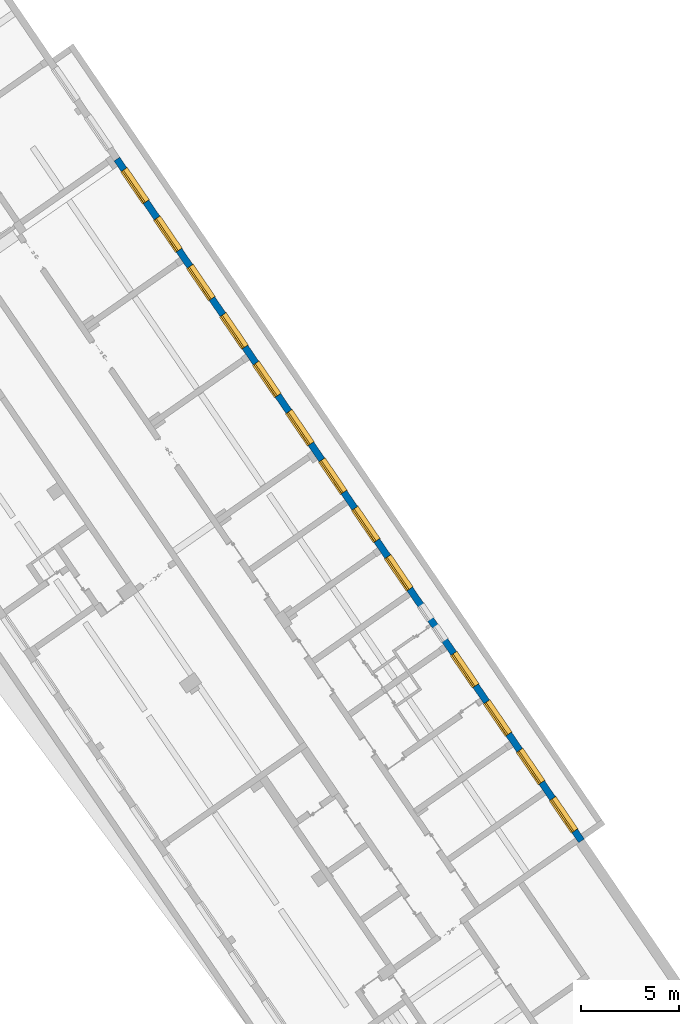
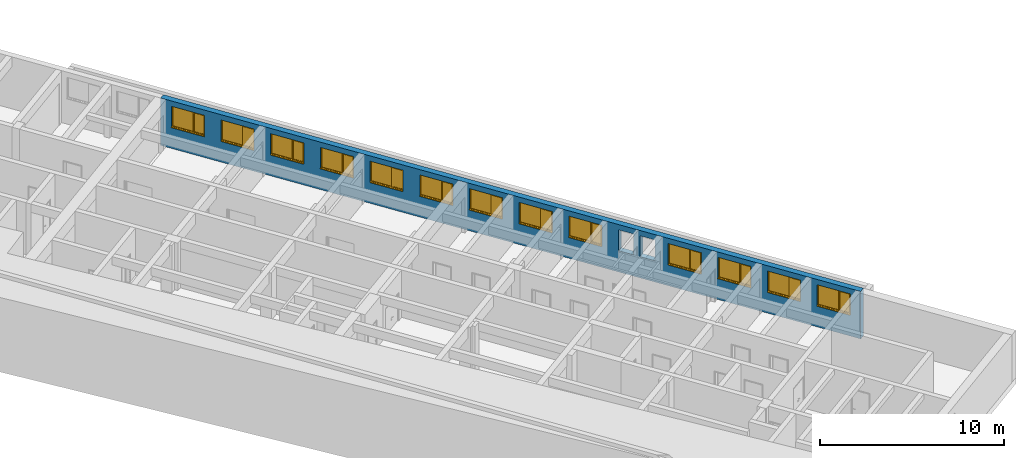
# One storey, part 56 of 112: 13 windows, 1 wall, 15 openings.
"""IFC2X3 building model written with IfcOpenShell, lengths in millimetres."""

from ifc_helpers import new_model, entity, si_unit, converted_unit, derived_unit, direction, frame, frame_2d, origin, place, context, subcontext, project, spatial, polyline, rectangle, outline, extrude, faceted_brep, source, transform, mapped, material, material_list, layer, layer_set, layer_usage, type_object, type_shapes, element, fill, save


model = new_model("IFC2X3")

# Units and contexts
model_context = context("Model", 3, precision=0.01, world=origin(), true_north=direction((6.123031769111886e-17, 1.0)))
body_context = subcontext(model_context, "Body", "Model", "MODEL_VIEW")
ifc_project = project(units=[si_unit("LENGTHUNIT", "METRE", prefix="MILLI"), si_unit("AREAUNIT", "SQUARE_METRE"), si_unit("VOLUMEUNIT", "CUBIC_METRE"), converted_unit("PLANEANGLEUNIT", "DEGREE", entity("IfcRatioMeasure", 0.017453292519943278), si_unit("PLANEANGLEUNIT", "RADIAN"), dimensions=[0, 0, 0, 0, 0, 0, 0]), si_unit("MASSUNIT", "GRAM", prefix="KILO"), derived_unit("MASSDENSITYUNIT", [(si_unit("MASSUNIT", "GRAM", prefix="KILO"), 1), (si_unit("LENGTHUNIT", "METRE"), -3)]), derived_unit("MOMENTOFINERTIAUNIT", [(si_unit("LENGTHUNIT", "METRE"), 4)]), si_unit("TIMEUNIT", "SECOND"), si_unit("FREQUENCYUNIT", "HERTZ"), si_unit("THERMODYNAMICTEMPERATUREUNIT", "DEGREE_CELSIUS"), derived_unit("THERMALTRANSMITTANCEUNIT", [(si_unit("MASSUNIT", "GRAM", prefix="KILO"), 1), (si_unit("THERMODYNAMICTEMPERATUREUNIT", "KELVIN"), -1), (si_unit("TIMEUNIT", "SECOND"), -3)]), derived_unit("THERMALCONDUCTANCEUNIT", [(si_unit("MASSUNIT", "GRAM", prefix="KILO"), 1), (si_unit("LENGTHUNIT", "METRE"), 1), (si_unit("THERMODYNAMICTEMPERATUREUNIT", "KELVIN"), -1), (si_unit("TIMEUNIT", "SECOND"), -3)]), derived_unit("VOLUMETRICFLOWRATEUNIT", [(si_unit("LENGTHUNIT", "METRE"), 3), (si_unit("TIMEUNIT", "SECOND"), -1)]), derived_unit("MASSFLOWRATEUNIT", [(si_unit("MASSUNIT", "GRAM", prefix="KILO"), 1), (si_unit("TIMEUNIT", "SECOND"), -1)]), derived_unit("ROTATIONALFREQUENCYUNIT", [(si_unit("TIMEUNIT", "SECOND"), -1)]), si_unit("ELECTRICCURRENTUNIT", "AMPERE"), si_unit("ELECTRICVOLTAGEUNIT", "VOLT"), si_unit("POWERUNIT", "WATT"), converted_unit("FORCEUNIT", "KIP", entity("IfcRatioMeasure", 2.088543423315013e-05), si_unit("FORCEUNIT", "NEWTON"), dimensions=[1, 1, -2, 0, 0, 0, 0]), si_unit("ILLUMINANCEUNIT", "LUX"), si_unit("LUMINOUSFLUXUNIT", "LUMEN"), si_unit("LUMINOUSINTENSITYUNIT", "CANDELA"), derived_unit("USERDEFINED", [(si_unit("MASSUNIT", "GRAM", prefix="KILO"), -1), (si_unit("LENGTHUNIT", "METRE"), -2), (si_unit("TIMEUNIT", "SECOND"), 3), (si_unit("LUMINOUSFLUXUNIT", "LUMEN"), 1)]), derived_unit("USERDEFINED", [(si_unit("MASSUNIT", "GRAM", prefix="KILO"), 1), (si_unit("LENGTHUNIT", "METRE"), 3), (si_unit("TIMEUNIT", "SECOND"), -3), (si_unit("ELECTRICCURRENTUNIT", "AMPERE"), -2)]), derived_unit("USERDEFINED", [(si_unit("LENGTHUNIT", "METRE"), 2), (si_unit("TIMEUNIT", "SECOND"), -2)]), derived_unit("SOUNDPOWERUNIT", [(si_unit("MASSUNIT", "GRAM", prefix="KILO"), 1), (si_unit("LENGTHUNIT", "METRE"), 2), (si_unit("TIMEUNIT", "SECOND"), -3)]), derived_unit("SOUNDPRESSUREUNIT", [(si_unit("MASSUNIT", "GRAM", prefix="KILO"), 1), (si_unit("LENGTHUNIT", "METRE"), -1), (si_unit("TIMEUNIT", "SECOND"), -2)]), derived_unit("LINEARVELOCITYUNIT", [(si_unit("LENGTHUNIT", "METRE"), 1), (si_unit("TIMEUNIT", "SECOND"), -1)]), si_unit("PRESSUREUNIT", "PASCAL"), derived_unit("USERDEFINED", [(si_unit("LENGTHUNIT", "METRE"), -2), (si_unit("MASSUNIT", "GRAM", prefix="KILO"), 1), (si_unit("TIMEUNIT", "SECOND"), -2)]), derived_unit("LINEARFORCEUNIT", [(si_unit("MASSUNIT", "GRAM", prefix="KILO"), 1), (si_unit("LENGTHUNIT", "METRE"), 1), (si_unit("TIMEUNIT", "SECOND"), -2), (si_unit("LENGTHUNIT", "METRE"), -1)]), derived_unit("PLANARFORCEUNIT", [(si_unit("MASSUNIT", "GRAM", prefix="KILO"), 1), (si_unit("LENGTHUNIT", "METRE"), 1), (si_unit("TIMEUNIT", "SECOND"), -2), (si_unit("LENGTHUNIT", "METRE"), -2)]), derived_unit("SPECIFICHEATCAPACITYUNIT", [(si_unit("LENGTHUNIT", "METRE"), 2), (si_unit("TIMEUNIT", "SECOND"), -2), (si_unit("THERMODYNAMICTEMPERATUREUNIT", "KELVIN"), -1)]), derived_unit("VAPORPERMEABILITYUNIT", [(si_unit("TIMEUNIT", "SECOND"), 1), (si_unit("LENGTHUNIT", "METRE"), -1)]), derived_unit("DYNAMICVISCOSITYUNIT", [(si_unit("MASSUNIT", "GRAM", prefix="KILO"), 1), (si_unit("LENGTHUNIT", "METRE"), -1), (si_unit("TIMEUNIT", "SECOND"), -1)]), derived_unit("THERMALEXPANSIONCOEFFICIENTUNIT", [(si_unit("THERMODYNAMICTEMPERATUREUNIT", "KELVIN"), -1)])], contexts=[model_context])

# Site, building, storey
site_placement = place(None, frame((0.0, 0.0, 0.0), z_axis=(0.0, 0.0, 1.0), x_axis=(0.8191520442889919, 0.5735764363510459, 0.0)))
site = spatial("IfcSite", under=ifc_project, at=site_placement, Name="Default", CompositionType="ELEMENT")
building_placement = place(site_placement, origin())
building = spatial("IfcBuilding", under=site, at=building_placement, CompositionType="ELEMENT")
storey_placement = place(building_placement, frame((0.0, 0.0, -3600.0)))
storey = spatial("IfcBuildingStorey", under=building, at=storey_placement, Name="0.UG -3.60", CompositionType="ELEMENT", Elevation=-3600.0000000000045)

# Wall, openings, windows
ifc_material_1 = material(Name="Analytical Wall Surface_CJC")
ifc_layer = layer(ifc_material_1, 350.0)
ifc_layer_set = layer_set([ifc_layer], Name="Basic Wall:Wand_Aussen_35")
ifc_layer_usage = layer_usage(ifc_layer_set, "AXIS2", "NEGATIVE", 175.0)
wall_type = type_object("IfcWallType", Name="Basic Wall:Wand_Aussen_35", PredefinedType="STANDARD", material=ifc_layer_set)
wall_placement = place(storey_placement, frame((-205076.49299844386, 103546.35891435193, 300.0), z_axis=(0.0, 0.0, 1.0), x_axis=(-0.012729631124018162, -0.9999189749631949, 0.0)))
wall = element("IfcWallStandardCase", 1, at=wall_placement, inside=storey, type_object=wall_type, material=ifc_layer_usage, Name="Basic Wall:Wand_Aussen_35", ObjectType="Basic Wall:Wand_Aussen_35", context=body_context, shape_type="SweptSolid", body=[
    extrude(outline(polyline([(42280.653476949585, -175.0), (42276.197745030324, 175.0), (0.0, 175.0), (0.0, -175.0), (42280.653476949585, -175.0)])), origin(), (0.0, 0.0, 1.0), 3150.000000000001),
])
opening_1_placement = place(wall_placement, frame((29854.630429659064, 175.0, 1400.0)))
element("IfcOpeningElement", 2, at=opening_1_placement, cuts=wall, Name="Windows_Sgl_Plain:90x140:1", ObjectType="Opening", context=body_context, shape_type="SweptSolid", body=[
    extrude(rectangle(XDim=1400.000000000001, YDim=900.0000000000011, at=frame_2d((700.0000000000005, 450.0000000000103), x_axis=(-1.0, 0.0))), frame((0.0, 0.0, 0.0), z_axis=(0.0, -1.0, 0.0), x_axis=(0.0, 0.0, 1.0)), (0.0, 0.0, 1.0), 350.0),
])
opening_2_placement = place(wall_placement, frame((2652.2805292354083, 175.0, 1400.0)))
opening_2 = element("IfcOpeningElement", 3, at=opening_2_placement, cuts=wall, Name="Windows_Dbl_Plain:200x140:1", ObjectType="Opening", context=body_context, shape_type="SweptSolid", body=[
    extrude(rectangle(XDim=1400.0000000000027, YDim=1999.9999999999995, at=frame_2d((700.0000000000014, 1000.0000000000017), x_axis=(-1.0, 0.0))), frame((0.0, 0.0, 0.0), z_axis=(0.0, -1.0, 0.0), x_axis=(0.0, 0.0, 1.0)), (0.0, 0.0, 1.0), 350.0),
])
opening_3_placement = place(wall_placement, frame((5652.523622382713, 175.0, 1400.0)))
opening_3 = element("IfcOpeningElement", 4, at=opening_3_placement, cuts=wall, Name="Windows_Dbl_Plain:200x140:1", ObjectType="Opening", context=body_context, shape_type="SweptSolid", body=[
    extrude(rectangle(XDim=1400.0000000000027, YDim=1999.9999999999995, at=frame_2d((700.0000000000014, 1000.0000000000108), x_axis=(-1.0, 0.0))), frame((0.0, 0.0, 0.0), z_axis=(0.0, -1.0, 0.0), x_axis=(0.0, 0.0, 1.0)), (0.0, 0.0, 1.0), 350.0),
])
opening_4_placement = place(wall_placement, frame((8652.766715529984, 175.0, 1400.0)))
opening_4 = element("IfcOpeningElement", 5, at=opening_4_placement, cuts=wall, Name="Windows_Dbl_Plain:200x140:1", ObjectType="Opening", context=body_context, shape_type="SweptSolid", body=[
    extrude(rectangle(XDim=1400.0000000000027, YDim=1999.9999999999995, at=frame_2d((700.0000000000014, 1000.0000000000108), x_axis=(-1.0, 0.0))), frame((0.0, 0.0, 0.0), z_axis=(0.0, -1.0, 0.0), x_axis=(0.0, 0.0, 1.0)), (0.0, 0.0, 1.0), 350.0),
])
opening_5_placement = place(wall_placement, frame((11653.009808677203, 175.0, 1400.0)))
opening_5 = element("IfcOpeningElement", 6, at=opening_5_placement, cuts=wall, Name="Windows_Dbl_Plain:200x140:1", ObjectType="Opening", context=body_context, shape_type="SweptSolid", body=[
    extrude(rectangle(XDim=1400.0000000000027, YDim=1999.9999999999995, at=frame_2d((700.0000000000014, 1000.0000000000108), x_axis=(-1.0, 0.0))), frame((0.0, 0.0, 0.0), z_axis=(0.0, -1.0, 0.0), x_axis=(0.0, 0.0, 1.0)), (0.0, 0.0, 1.0), 350.0),
])
opening_6_placement = place(wall_placement, frame((14653.25290182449, 175.0, 1400.0)))
opening_6 = element("IfcOpeningElement", 7, at=opening_6_placement, cuts=wall, Name="Windows_Dbl_Plain:200x140:1", ObjectType="Opening", context=body_context, shape_type="SweptSolid", body=[
    extrude(rectangle(XDim=1400.0000000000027, YDim=1999.9999999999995, at=frame_2d((700.0000000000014, 1000.0000000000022), x_axis=(-1.0, 0.0))), frame((0.0, 0.0, 0.0), z_axis=(0.0, -1.0, 0.0), x_axis=(0.0, 0.0, 1.0)), (0.0, 0.0, 1.0), 350.0),
])
opening_7_placement = place(wall_placement, frame((17653.495995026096, 175.0, 1400.0)))
opening_7 = element("IfcOpeningElement", 8, at=opening_7_placement, cuts=wall, Name="Windows_Dbl_Plain:200x140:1", ObjectType="Opening", context=body_context, shape_type="SweptSolid", body=[
    extrude(rectangle(XDim=1400.0000000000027, YDim=1999.9999999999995, at=frame_2d((700.0000000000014, 1000.0000000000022), x_axis=(-1.0, 0.0))), frame((0.0, 0.0, 0.0), z_axis=(0.0, -1.0, 0.0), x_axis=(0.0, 0.0, 1.0)), (0.0, 0.0, 1.0), 350.0),
])
opening_8_placement = place(wall_placement, frame((20653.90113500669, 175.0, 1400.0)))
opening_8 = element("IfcOpeningElement", 9, at=opening_8_placement, cuts=wall, Name="Windows_Dbl_Plain:200x140:1", ObjectType="Opening", context=body_context, shape_type="SweptSolid", body=[
    extrude(rectangle(XDim=1400.0000000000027, YDim=1999.9999999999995, at=frame_2d((700.0000000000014, 1000.0000000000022), x_axis=(-1.0, 0.0))), frame((0.0, 0.0, 0.0), z_axis=(0.0, -1.0, 0.0), x_axis=(0.0, 0.0, 1.0)), (0.0, 0.0, 1.0), 350.0),
])
opening_9_placement = place(wall_placement, frame((23653.982181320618, 175.0, 1400.0)))
opening_9 = element("IfcOpeningElement", 10, at=opening_9_placement, cuts=wall, Name="Windows_Dbl_Plain:200x140:1", ObjectType="Opening", context=body_context, shape_type="SweptSolid", body=[
    extrude(rectangle(XDim=1400.0000000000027, YDim=1999.9999999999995, at=frame_2d((700.0000000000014, 1000.0000000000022), x_axis=(-1.0, 0.0))), frame((0.0, 0.0, 0.0), z_axis=(0.0, -1.0, 0.0), x_axis=(0.0, 0.0, 1.0)), (0.0, 0.0, 1.0), 350.0),
])
opening_10_placement = place(wall_placement, frame((26654.225274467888, 175.0, 1400.0)))
opening_10 = element("IfcOpeningElement", 11, at=opening_10_placement, cuts=wall, Name="Windows_Dbl_Plain:200x140:1", ObjectType="Opening", context=body_context, shape_type="SweptSolid", body=[
    extrude(rectangle(XDim=1400.0000000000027, YDim=1999.9999999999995, at=frame_2d((700.0000000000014, 1000.0000000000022), x_axis=(-1.0, 0.0))), frame((0.0, 0.0, 0.0), z_axis=(0.0, -1.0, 0.0), x_axis=(0.0, 0.0, 1.0)), (0.0, 0.0, 1.0), 350.0),
])
opening_11_placement = place(wall_placement, frame((32654.711460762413, 175.0, 1400.0)))
opening_11 = element("IfcOpeningElement", 12, at=opening_11_placement, cuts=wall, Name="Windows_Dbl_Plain:200x140:1", ObjectType="Opening", context=body_context, shape_type="SweptSolid", body=[
    extrude(rectangle(XDim=1400.0000000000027, YDim=1999.9999999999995, at=frame_2d((700.0000000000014, 1000.0000000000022), x_axis=(-1.0, 0.0))), frame((0.0, 0.0, 0.0), z_axis=(0.0, -1.0, 0.0), x_axis=(0.0, 0.0, 1.0)), (0.0, 0.0, 1.0), 350.0),
])
opening_12_placement = place(wall_placement, frame((35654.9545539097, 175.0, 1400.0)))
opening_12 = element("IfcOpeningElement", 13, at=opening_12_placement, cuts=wall, Name="Windows_Dbl_Plain:200x140:1", ObjectType="Opening", context=body_context, shape_type="SweptSolid", body=[
    extrude(rectangle(XDim=1400.0000000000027, YDim=1999.9999999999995, at=frame_2d((700.0000000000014, 1000.0000000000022), x_axis=(-1.0, 0.0))), frame((0.0, 0.0, 0.0), z_axis=(0.0, -1.0, 0.0), x_axis=(0.0, 0.0, 1.0)), (0.0, 0.0, 1.0), 350.0),
])
opening_13_placement = place(wall_placement, frame((38655.197647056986, 175.0, 1400.0)))
opening_13 = element("IfcOpeningElement", 14, at=opening_13_placement, cuts=wall, Name="Windows_Dbl_Plain:200x140:1", ObjectType="Opening", context=body_context, shape_type="SweptSolid", body=[
    extrude(rectangle(XDim=1400.0000000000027, YDim=1999.9999999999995, at=frame_2d((700.0000000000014, 1000.0000000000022), x_axis=(-1.0, 0.0))), frame((0.0, 0.0, 0.0), z_axis=(0.0, -1.0, 0.0), x_axis=(0.0, 0.0, 1.0)), (0.0, 0.0, 1.0), 350.0),
])
opening_14_placement = place(wall_placement, frame((41655.440740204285, 175.0, 1400.0)))
opening_14 = element("IfcOpeningElement", 15, at=opening_14_placement, cuts=wall, Name="Windows_Dbl_Plain:200x140:1", ObjectType="Opening", context=body_context, shape_type="SweptSolid", body=[
    extrude(rectangle(XDim=1400.0000000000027, YDim=1999.9999999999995, at=frame_2d((700.0000000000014, 999.9999999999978), x_axis=(-1.0, 0.0))), frame((0.0, 0.0, 0.0), z_axis=(0.0, -1.0, 0.0), x_axis=(0.0, 0.0, 1.0)), (0.0, 0.0, 1.0), 350.0),
])
opening_15_placement = place(wall_placement, frame((28554.468367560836, 175.0, 1400.0)))
element("IfcOpeningElement", 16, at=opening_15_placement, cuts=wall, Name="Windows_Sgl_Plain:90x140:1", ObjectType="Opening", context=body_context, shape_type="SweptSolid", body=[
    extrude(rectangle(XDim=1400.000000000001, YDim=900.0000000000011, at=frame_2d((700.0000000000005, 450.00000000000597), x_axis=(-1.0, 0.0))), frame((0.0, 0.0, 0.0), z_axis=(0.0, -1.0, 0.0), x_axis=(0.0, 0.0, 1.0)), (0.0, 0.0, 1.0), 350.0),
])
ifc_material_2 = material(Name="Window Frame")
ifc_material_3 = material(Name="Glass")
ifc_material_list = material_list([ifc_material_2, ifc_material_3])
window_style = type_object("IfcWindowStyle", Name="Windows_Dbl_Plain:200x140", ConstructionType="NOTDEFINED", OperationType="DOUBLE_PANEL_VERTICAL", ParameterTakesPrecedence=False, Sizeable=False, material=ifc_material_list)
shared_shape = source(origin(), body_context, "Body", "Brep", [
    faceted_brep([(2595.0, -8.08686434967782, 0.0), (545.0, -8.08686434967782, 0.0), (545.0, 16.913135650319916, 0.0), (570.0, 16.913135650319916, 0.0), (570.0, 233.91313565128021, 0.0), (2570.0, 233.91313565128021, 0.0), (2570.0, 16.913135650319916, 0.0), (2595.0, 16.913135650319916, 0.0), (2595.0, -8.08686434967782, 25.0), (2595.0, 16.913135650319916, 25.0), (2570.0, 16.913135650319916, 25.0), (2570.0, 233.91313565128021, 25.0), (570.0, 233.91313565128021, 25.0), (570.0, 16.913135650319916, 25.0), (545.0, 16.913135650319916, 25.0), (545.0, -8.08686434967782, 25.0)], [[[0, 1, 2, 3, 4, 5, 6, 7]], [[8, 9, 10, 11, 12, 13, 14, 15]], [[7, 9, 8, 0]], [[6, 10, 9, 7]], [[5, 11, 10, 6]], [[4, 12, 11, 5]], [[3, 13, 12, 4]], [[2, 14, 13, 3]], [[1, 15, 14, 2]], [[0, 8, 15, 1]]]),
    faceted_brep([(1225.0, 280.91313565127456, 1330.0), (640.0, 280.9131356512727, 1330.0), (640.0, 280.9131356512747, 93.0), (1225.0, 280.91313565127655, 93.0), (1225.0, 304.9131356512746, 1330.0), (1225.0, 304.9131356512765, 93.0), (640.0, 304.9131356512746, 93.0), (640.0, 304.9131356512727, 1330.0)], [[[0, 1, 2, 3]], [[4, 5, 6, 7]], [[3, 5, 4, 0]], [[2, 6, 5, 3]], [[1, 7, 6, 2]], [[0, 4, 7, 1]]]),
    faceted_brep([(1265.0, 275.9131356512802, 1360.0), (2530.0, 275.91313565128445, 1360.0), (2530.0, 275.91313565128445, 63.0), (1265.0, 275.9131356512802, 63.0), (1265.0, 251.9131356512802, 1360.0), (1265.0, 251.9131356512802, 63.0), (2530.0, 251.91313565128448, 63.0), (2530.0, 251.91313565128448, 1360.0)], [[[0, 1, 2, 3]], [[4, 5, 6, 7]], [[3, 5, 4, 0]], [[2, 6, 5, 3]], [[1, 7, 6, 2]], [[0, 4, 7, 1]]]),
    faceted_brep([(630.0, 233.91313565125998, 1340.0), (1237.0, 233.91313565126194, 1340.0), (1237.0, 233.91313565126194, 75.0), (630.0, 233.91313565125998, 75.0), (1295.0, 233.9131356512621, 1340.0), (2510.0, 233.9131356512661, 1340.0), (2510.0, 233.9131356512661, 75.0), (1295.0, 233.91313565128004, 75.0), (570.0, 233.9131356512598, 1400.0), (570.0, 233.9131356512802, 0.0), (2570.0, 233.9131356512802, 0.0), (2570.0, 233.9131356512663, 1400.0), (2570.0, 404.4131356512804, 0.0), (2570.0, 404.4131356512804, 33.80888466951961), (2570.0, 331.9131356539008, 44.74496761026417), (2570.0, 331.9131356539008, 49.687670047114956), (2570.0, 316.91313565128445, 51.0), (2570.0, 316.91313565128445, 1400.0), (2530.0, 316.91313565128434, 1360.0), (1295.0, 316.91313565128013, 1360.0), (1295.0, 316.91313565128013, 63.0), (2530.0, 316.91313565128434, 63.0), (1255.0, 316.9131356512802, 1360.0), (610.0, 316.9131356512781, 1360.0), (610.0, 316.91313565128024, 63.0), (1255.0, 316.91313565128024, 63.0), (570.0, 316.9131356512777, 51.0), (570.0, 316.9131356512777, 1400.0), (2530.0, 251.91313565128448, 63.0), (2530.0, 251.91313565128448, 1360.0), (1285.0, 251.91313565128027, 63.0), (1285.0, 251.91313565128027, 1360.0), (1295.0, 251.9131356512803, 1340.0), (1295.0, 251.9131356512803, 75.0), (2510.0, 251.91313565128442, 75.0), (2510.0, 251.91313565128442, 1340.0), (1285.0, 275.9131356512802, 1360.0), (1295.0, 275.9131356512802, 1360.0), (570.0, 331.9131356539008, 49.68767004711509), (570.0, 331.9131356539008, 44.744967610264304), (570.0, 404.4131356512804, 33.80888466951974), (570.0, 404.4131356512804, 0.0), (610.0, 251.913135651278, 1360.0), (610.0, 251.91313565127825, 63.0), (630.0, 251.91313565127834, 75.0), (630.0, 251.91313565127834, 1340.0), (1285.0, 275.9131356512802, 63.0), (1295.0, 275.9131356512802, 63.0), (1255.0, 251.91313565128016, 63.0), (1255.0, 251.91313565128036, 1360.0), (1237.0, 251.9131356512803, 1340.0), (1237.0, 251.9131356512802, 75.0)], [[[0, 1, 2, 3], [4, 5, 6, 7], [8, 9, 10, 11]], [[10, 12, 13, 14, 15, 16, 17, 11]], [[18, 19, 20, 21], [22, 23, 24, 25], [16, 26, 27, 17]], [[21, 28, 29, 18]], [[29, 28, 30, 31], [32, 33, 34, 35]], [[35, 34, 6, 5]], [[11, 17, 27, 8]], [[29, 31, 36, 37, 19, 18]], [[5, 4, 32, 35]], [[26, 38, 39, 40, 41, 9, 8, 27]], [[23, 42, 43, 24]], [[0, 3, 44, 45]], [[36, 31, 30, 46]], [[46, 47, 37, 36]], [[47, 20, 19, 37]], [[25, 48, 49, 22]], [[50, 51, 2, 1]], [[4, 7, 33, 32]], [[41, 12, 10, 9]], [[40, 13, 12, 41]], [[39, 14, 13, 40]], [[38, 15, 14, 39]], [[26, 16, 15, 38]], [[24, 43, 48, 25]], [[2, 51, 44, 3]], [[33, 7, 6, 34]], [[20, 47, 46, 30, 28, 21]], [[45, 50, 1, 0]], [[23, 22, 49, 42]], [[49, 48, 43, 42], [45, 44, 51, 50]]], outer=[[False, False, True], [True], [False, False, True], [True], [True, False], [True], [True], [True], [True], [True], [True], [True], [True], [True], [True], [True], [True], [True], [True], [True], [True], [True], [True], [True], [True], [True], [True], [True], [True], [True, False]]),
    faceted_brep([(1265.0, 316.91313565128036, 1370.0), (1265.0, 316.9131356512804, 53.0), (1265.0, 322.68663834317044, 53.0), (1265.0, 322.68663834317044, 1370.0), (1255.0, 251.9131356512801, 1360.0), (1255.0, 251.9131356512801, 63.0), (1255.0, 316.91313565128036, 63.0), (1255.0, 316.91313565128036, 1360.0), (1215.0, 266.40603550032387, 1320.0), (1215.0, 266.40603550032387, 103.0), (1225.1480377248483, 251.91313565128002, 92.85196227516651), (1225.148037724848, 251.91313565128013, 1330.1480377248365), (1215.0, 280.91313565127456, 1320.0), (1215.0, 280.91313565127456, 103.0), (1225.0, 304.9131356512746, 1330.0), (1225.0, 304.9131356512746, 93.0), (1225.0, 280.91313565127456, 93.0), (1225.0, 280.91313565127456, 1330.0), (1215.0, 322.68663834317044, 1320.0), (1215.0, 322.68663834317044, 103.0), (1215.0, 304.9131356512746, 103.0), (1215.0, 304.9131356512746, 1320.0), (1232.4457548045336, 328.4601410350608, 1337.4457548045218), (1232.4457548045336, 328.4601410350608, 85.55424519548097), (1254.2153903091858, 328.4601410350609, 63.78460969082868), (1254.2153903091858, 328.4601410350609, 1359.215390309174), (600.0, 316.9131356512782, 53.0), (600.0, 322.6866383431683, 53.0), (610.0, 251.913135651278, 63.0), (610.0, 316.91313565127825, 63.0), (650.0, 266.40603550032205, 103.0), (639.8519622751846, 251.91313565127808, 92.85196227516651), (650.0, 280.9131356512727, 103.0), (640.0, 304.9131356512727, 93.0), (640.0, 280.9131356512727, 93.0), (650.0, 322.6866383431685, 103.0), (650.0, 304.9131356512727, 103.0), (632.5542451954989, 328.4601410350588, 85.55424519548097), (610.7846096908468, 328.46014103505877, 63.784609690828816), (600.0, 316.9131356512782, 1370.0), (600.0, 322.6866383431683, 1370.0), (610.0, 251.913135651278, 1360.0), (610.0, 316.91313565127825, 1360.0), (650.0, 266.4060355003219, 1320.0), (639.8519622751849, 251.91313565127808, 1330.148037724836), (650.0, 280.9131356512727, 1320.0), (640.0, 304.9131356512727, 1330.0), (640.0, 280.9131356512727, 1330.0), (650.0, 322.6866383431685, 1320.0), (650.0, 304.9131356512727, 1320.0), (632.5542451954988, 328.4601410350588, 1337.4457548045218), (610.7846096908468, 328.46014103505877, 1359.215390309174)], [[[0, 1, 2, 3]], [[4, 5, 6, 7]], [[8, 9, 10, 11]], [[12, 13, 9, 8]], [[14, 15, 16, 17]], [[18, 19, 20, 21]], [[22, 23, 19, 18]], [[3, 2, 24, 25]], [[1, 26, 27, 2]], [[5, 28, 29, 6]], [[9, 30, 31, 10]], [[13, 32, 30, 9]], [[15, 33, 34, 16]], [[19, 35, 36, 20]], [[23, 37, 35, 19]], [[2, 27, 38, 24]], [[26, 39, 40, 27]], [[28, 41, 42, 29]], [[30, 43, 44, 31]], [[32, 45, 43, 30]], [[33, 46, 47, 34]], [[35, 48, 49, 36]], [[37, 50, 48, 35]], [[27, 40, 51, 38]], [[39, 0, 3, 40]], [[1, 0, 39, 26], [7, 6, 29, 42]], [[41, 4, 7, 42]], [[5, 4, 41, 28], [11, 10, 31, 44]], [[43, 8, 11, 44]], [[45, 12, 8, 43]], [[13, 12, 45, 32], [17, 16, 34, 47]], [[46, 14, 17, 47]], [[15, 14, 46, 33], [21, 20, 36, 49]], [[48, 18, 21, 49]], [[50, 22, 18, 48]], [[23, 22, 50, 37], [25, 24, 38, 51]], [[40, 3, 25, 51]]], outer=[[True], [True], [True], [True], [True], [True], [True], [True], [True], [True], [True], [True], [True], [True], [True], [True], [True], [True], [True], [True], [True], [True], [True], [True], [True], [True, False], [True], [True, False], [True], [True], [False, True], [True], [True, False], [True], [True], [False, True], [True]]),
])
type_shapes(window_style, [shared_shape])
window_1_placement = place(opening_2_placement, frame((570.0, 16.913135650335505, 0.0), z_axis=(0.0, 0.0, 1.0), x_axis=(-1.0, 0.0, 0.0)))
window_1 = element("IfcWindow", 17, at=window_1_placement, inside=storey, type_object=window_style, material=ifc_material_list, Name="Windows_Dbl_Plain:200x140", ObjectType="Windows_Dbl_Plain:200x140", OverallHeight=1400.0000000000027, OverallWidth=1999.9999999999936, context=body_context, shape_type="MappedRepresentation", body=[
    mapped(shared_shape, transform((0.0, 0.0, 0.0), scale=1.0)),
])
fill(opening_2, window_1)
window_2_placement = place(opening_3_placement, frame((570.0, 16.91313565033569, 0.0), z_axis=(0.0, 0.0, 1.0), x_axis=(-1.0, 0.0, 0.0)))
window_2 = element("IfcWindow", 18, at=window_2_placement, inside=storey, type_object=window_style, material=ifc_material_list, Name="Windows_Dbl_Plain:200x140", ObjectType="Windows_Dbl_Plain:200x140", OverallHeight=1400.0000000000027, OverallWidth=1999.9999999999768, context=body_context, shape_type="MappedRepresentation", body=[
    mapped(shared_shape, transform((0.0, 0.0, 0.0), scale=1.0)),
])
fill(opening_3, window_2)
window_3_placement = place(opening_4_placement, frame((570.0, 16.91313565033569, 0.0), z_axis=(0.0, 0.0, 1.0), x_axis=(-1.0, 0.0, 0.0)))
window_3 = element("IfcWindow", 19, at=window_3_placement, inside=storey, type_object=window_style, material=ifc_material_list, Name="Windows_Dbl_Plain:200x140", ObjectType="Windows_Dbl_Plain:200x140", OverallHeight=1400.0000000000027, OverallWidth=1999.9999999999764, context=body_context, shape_type="MappedRepresentation", body=[
    mapped(shared_shape, transform((0.0, 0.0, 0.0), scale=1.0)),
])
fill(opening_4, window_3)
window_4_placement = place(opening_5_placement, frame((570.0, 16.91313565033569, 0.0), z_axis=(0.0, 0.0, 1.0), x_axis=(-1.0, 0.0, 0.0)))
window_4 = element("IfcWindow", 20, at=window_4_placement, inside=storey, type_object=window_style, material=ifc_material_list, Name="Windows_Dbl_Plain:200x140", ObjectType="Windows_Dbl_Plain:200x140", OverallHeight=1400.0000000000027, OverallWidth=1999.9999999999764, context=body_context, shape_type="MappedRepresentation", body=[
    mapped(shared_shape, transform((0.0, 0.0, 0.0), scale=1.0)),
])
fill(opening_5, window_4)
window_5_placement = place(opening_6_placement, frame((570.0, 16.91313565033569, 0.0), z_axis=(0.0, 0.0, 1.0), x_axis=(-1.0, 0.0, 0.0)))
window_5 = element("IfcWindow", 21, at=window_5_placement, inside=storey, type_object=window_style, material=ifc_material_list, Name="Windows_Dbl_Plain:200x140", ObjectType="Windows_Dbl_Plain:200x140", OverallHeight=1400.0000000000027, OverallWidth=1999.999999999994, context=body_context, shape_type="MappedRepresentation", body=[
    mapped(shared_shape, transform((0.0, 0.0, 0.0), scale=1.0)),
])
fill(opening_6, window_5)
window_6_placement = place(opening_7_placement, frame((570.0, 16.91313565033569, 0.0), z_axis=(0.0, 0.0, 1.0), x_axis=(-1.0, 0.0, 0.0)))
window_6 = element("IfcWindow", 22, at=window_6_placement, inside=storey, type_object=window_style, material=ifc_material_list, Name="Windows_Dbl_Plain:200x140", ObjectType="Windows_Dbl_Plain:200x140", OverallHeight=1400.0000000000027, OverallWidth=1999.9999999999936, context=body_context, shape_type="MappedRepresentation", body=[
    mapped(shared_shape, transform((0.0, 0.0, 0.0), scale=1.0)),
])
fill(opening_7, window_6)
window_7_placement = place(opening_8_placement, frame((570.0, 16.91313565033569, 0.0), z_axis=(0.0, 0.0, 1.0), x_axis=(-1.0, 0.0, 0.0)))
window_7 = element("IfcWindow", 23, at=window_7_placement, inside=storey, type_object=window_style, material=ifc_material_list, Name="Windows_Dbl_Plain:200x140", ObjectType="Windows_Dbl_Plain:200x140", OverallHeight=1400.0000000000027, OverallWidth=1999.9999999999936, context=body_context, shape_type="MappedRepresentation", body=[
    mapped(shared_shape, transform((0.0, 0.0, 0.0), scale=1.0)),
])
fill(opening_8, window_7)
window_8_placement = place(opening_9_placement, frame((570.0, 16.91313565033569, 0.0), z_axis=(0.0, 0.0, 1.0), x_axis=(-1.0, 0.0, 0.0)))
window_8 = element("IfcWindow", 24, at=window_8_placement, inside=storey, type_object=window_style, material=ifc_material_list, Name="Windows_Dbl_Plain:200x140", ObjectType="Windows_Dbl_Plain:200x140", OverallHeight=1400.0000000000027, OverallWidth=1999.999999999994, context=body_context, shape_type="MappedRepresentation", body=[
    mapped(shared_shape, transform((0.0, 0.0, 0.0), scale=1.0)),
])
fill(opening_9, window_8)
window_9_placement = place(opening_10_placement, frame((570.0, 16.91313565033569, 0.0), z_axis=(0.0, 0.0, 1.0), x_axis=(-1.0, 0.0, 0.0)))
window_9 = element("IfcWindow", 25, at=window_9_placement, inside=storey, type_object=window_style, material=ifc_material_list, Name="Windows_Dbl_Plain:200x140", ObjectType="Windows_Dbl_Plain:200x140", OverallHeight=1400.0000000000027, OverallWidth=1999.9999999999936, context=body_context, shape_type="MappedRepresentation", body=[
    mapped(shared_shape, transform((0.0, 0.0, 0.0), scale=1.0)),
])
fill(opening_10, window_9)
window_10_placement = place(opening_11_placement, frame((570.0, 16.91313565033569, 0.0), z_axis=(0.0, 0.0, 1.0), x_axis=(-1.0, 0.0, 0.0)))
window_10 = element("IfcWindow", 26, at=window_10_placement, inside=storey, type_object=window_style, material=ifc_material_list, Name="Windows_Dbl_Plain:200x140", ObjectType="Windows_Dbl_Plain:200x140", OverallHeight=1400.0000000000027, OverallWidth=2000.0000000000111, context=body_context, shape_type="MappedRepresentation", body=[
    mapped(shared_shape, transform((0.0, 0.0, 0.0), scale=1.0)),
])
fill(opening_11, window_10)
window_11_placement = place(opening_12_placement, frame((570.0, 16.913135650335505, 0.0), z_axis=(0.0, 0.0, 1.0), x_axis=(-1.0, 0.0, 0.0)))
window_11 = element("IfcWindow", 27, at=window_11_placement, inside=storey, type_object=window_style, material=ifc_material_list, Name="Windows_Dbl_Plain:200x140", ObjectType="Windows_Dbl_Plain:200x140", OverallHeight=1400.0000000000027, OverallWidth=2000.0000000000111, context=body_context, shape_type="MappedRepresentation", body=[
    mapped(shared_shape, transform((0.0, 0.0, 0.0), scale=1.0)),
])
fill(opening_12, window_11)
window_12_placement = place(opening_13_placement, frame((570.0, 16.91313565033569, 0.0), z_axis=(0.0, 0.0, 1.0), x_axis=(-1.0, 0.0, 0.0)))
window_12 = element("IfcWindow", 28, at=window_12_placement, inside=storey, type_object=window_style, material=ifc_material_list, Name="Windows_Dbl_Plain:200x140", ObjectType="Windows_Dbl_Plain:200x140", OverallHeight=1400.0000000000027, OverallWidth=2000.0000000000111, context=body_context, shape_type="MappedRepresentation", body=[
    mapped(shared_shape, transform((0.0, 0.0, 0.0), scale=1.0)),
])
fill(opening_13, window_12)
window_13_placement = place(opening_14_placement, frame((570.0, 16.913135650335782, 0.0), z_axis=(0.0, 0.0, 1.0), x_axis=(-1.0, 0.0, 0.0)))
window_13 = element("IfcWindow", 29, at=window_13_placement, inside=storey, type_object=window_style, material=ifc_material_list, Name="Windows_Dbl_Plain:200x140", ObjectType="Windows_Dbl_Plain:200x140", OverallHeight=1400.0000000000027, OverallWidth=2000.0000000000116, context=body_context, shape_type="MappedRepresentation", body=[
    mapped(shared_shape, transform((0.0, 0.0, 0.0), scale=1.0)),
])
fill(opening_14, window_13)

save(model, "model.ifc")
